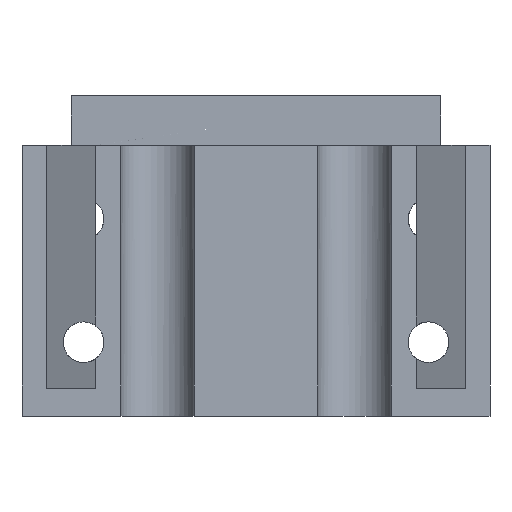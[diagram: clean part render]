
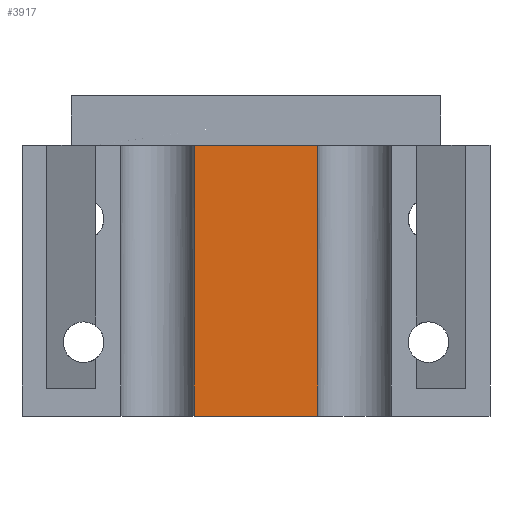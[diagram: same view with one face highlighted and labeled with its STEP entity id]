
A CAD part, left-side view. The second image highlights one B-rep face of the part: STEP entity #3917.
In plain terms, the highlighted planar face has unit normal (-1, 0, 0).
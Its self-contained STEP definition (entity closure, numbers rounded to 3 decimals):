
#100 = PLANE('',#101);
#101 = AXIS2_PLACEMENT_3D('',#102,#103,#104);
#102 = CARTESIAN_POINT('',(130.,63.,8.));
#103 = DIRECTION('',(0.,0.,1.));
#104 = DIRECTION('',(1.,0.,0.));
#438 = CYLINDRICAL_SURFACE('',#439,3.);
#439 = AXIS2_PLACEMENT_3D('',#440,#441,#442);
#440 = CARTESIAN_POINT('',(137.,70.,-15.));
#441 = DIRECTION('',(-0.,-0.,-1.));
#442 = DIRECTION('',(1.,0.,0.));
#543 = CYLINDRICAL_SURFACE('',#544,3.);
#544 = AXIS2_PLACEMENT_3D('',#545,#546,#547);
#545 = CARTESIAN_POINT('',(137.,86.,-15.));
#546 = DIRECTION('',(-0.,-0.,-1.));
#547 = DIRECTION('',(1.,0.,0.));
#994 = VERTEX_POINT('',#995);
#995 = CARTESIAN_POINT('',(136.925,72.999,8.));
#1021 = EDGE_CURVE('',#994,#1022,#1024,.T.);
#1022 = VERTEX_POINT('',#1023);
#1023 = CARTESIAN_POINT('',(136.925,83.001,8.));
#1024 = SURFACE_CURVE('',#1025,(#1029,#1036),.PCURVE_S1.);
#1025 = LINE('',#1026,#1027);
#1026 = CARTESIAN_POINT('',(136.925,59.,8.));
#1027 = VECTOR('',#1028,1.);
#1028 = DIRECTION('',(0.,1.,0.));
#1029 = PCURVE('',#100,#1030);
#1030 = DEFINITIONAL_REPRESENTATION('',(#1031),#1035);
#1031 = LINE('',#1032,#1033);
#1032 = CARTESIAN_POINT('',(6.925,-4.));
#1033 = VECTOR('',#1034,1.);
#1034 = DIRECTION('',(0.,1.));
#1035 = ( GEOMETRIC_REPRESENTATION_CONTEXT(2) 
PARAMETRIC_REPRESENTATION_CONTEXT() REPRESENTATION_CONTEXT('2D SPACE',''
  ) );
#1036 = PCURVE('',#1037,#1042);
#1037 = PLANE('',#1038);
#1038 = AXIS2_PLACEMENT_3D('',#1039,#1040,#1041);
#1039 = CARTESIAN_POINT('',(136.925,59.,-14.));
#1040 = DIRECTION('',(1.,0.,0.));
#1041 = DIRECTION('',(0.,0.,1.));
#1042 = DEFINITIONAL_REPRESENTATION('',(#1043),#1047);
#1043 = LINE('',#1044,#1045);
#1044 = CARTESIAN_POINT('',(22.,0.));
#1045 = VECTOR('',#1046,1.);
#1046 = DIRECTION('',(0.,-1.));
#1047 = ( GEOMETRIC_REPRESENTATION_CONTEXT(2) 
PARAMETRIC_REPRESENTATION_CONTEXT() REPRESENTATION_CONTEXT('2D SPACE',''
  ) );
#1956 = VERTEX_POINT('',#1957);
#1957 = CARTESIAN_POINT('',(136.925,72.999,-14.));
#1974 = PLANE('',#1975);
#1975 = AXIS2_PLACEMENT_3D('',#1976,#1977,#1978);
#1976 = CARTESIAN_POINT('',(136.925,59.,-14.));
#1977 = DIRECTION('',(0.,0.,1.));
#1978 = DIRECTION('',(1.,0.,0.));
#2061 = EDGE_CURVE('',#994,#1956,#2062,.T.);
#2062 = SURFACE_CURVE('',#2063,(#2067,#2073),.PCURVE_S1.);
#2063 = LINE('',#2064,#2065);
#2064 = CARTESIAN_POINT('',(136.925,72.999,-15.));
#2065 = VECTOR('',#2066,1.);
#2066 = DIRECTION('',(-0.,-0.,-1.));
#2067 = PCURVE('',#438,#2068);
#2068 = DEFINITIONAL_REPRESENTATION('',(#2069),#2072);
#2069 = B_SPLINE_CURVE_WITH_KNOTS('',1,(#2070,#2071),.UNSPECIFIED.,.F.,
  .F.,(2,2),(-25.2,0.),.PIECEWISE_BEZIER_KNOTS.);
#2070 = CARTESIAN_POINT('',(-1.596,-25.2));
#2071 = CARTESIAN_POINT('',(-1.596,0.));
#2072 = ( GEOMETRIC_REPRESENTATION_CONTEXT(2) 
PARAMETRIC_REPRESENTATION_CONTEXT() REPRESENTATION_CONTEXT('2D SPACE',''
  ) );
#2073 = PCURVE('',#1037,#2074);
#2074 = DEFINITIONAL_REPRESENTATION('',(#2075),#2078);
#2075 = B_SPLINE_CURVE_WITH_KNOTS('',1,(#2076,#2077),.UNSPECIFIED.,.F.,
  .F.,(2,2),(-25.2,0.),.PIECEWISE_BEZIER_KNOTS.);
#2076 = CARTESIAN_POINT('',(24.2,-13.999));
#2077 = CARTESIAN_POINT('',(-1.,-13.999));
#2078 = ( GEOMETRIC_REPRESENTATION_CONTEXT(2) 
PARAMETRIC_REPRESENTATION_CONTEXT() REPRESENTATION_CONTEXT('2D SPACE',''
  ) );
#2457 = VERTEX_POINT('',#2458);
#2458 = CARTESIAN_POINT('',(136.925,83.001,-14.));
#2484 = EDGE_CURVE('',#1022,#2457,#2485,.T.);
#2485 = SURFACE_CURVE('',#2486,(#2490,#2496),.PCURVE_S1.);
#2486 = LINE('',#2487,#2488);
#2487 = CARTESIAN_POINT('',(136.925,83.001,-15.));
#2488 = VECTOR('',#2489,1.);
#2489 = DIRECTION('',(-0.,-0.,-1.));
#2490 = PCURVE('',#543,#2491);
#2491 = DEFINITIONAL_REPRESENTATION('',(#2492),#2495);
#2492 = B_SPLINE_CURVE_WITH_KNOTS('',1,(#2493,#2494),.UNSPECIFIED.,.F.,
  .F.,(2,2),(-25.2,0.),.PIECEWISE_BEZIER_KNOTS.);
#2493 = CARTESIAN_POINT('',(-4.687,-25.2));
#2494 = CARTESIAN_POINT('',(-4.687,0.));
#2495 = ( GEOMETRIC_REPRESENTATION_CONTEXT(2) 
PARAMETRIC_REPRESENTATION_CONTEXT() REPRESENTATION_CONTEXT('2D SPACE',''
  ) );
#2496 = PCURVE('',#1037,#2497);
#2497 = DEFINITIONAL_REPRESENTATION('',(#2498),#2501);
#2498 = B_SPLINE_CURVE_WITH_KNOTS('',1,(#2499,#2500),.UNSPECIFIED.,.F.,
  .F.,(2,2),(-25.2,0.),.PIECEWISE_BEZIER_KNOTS.);
#2499 = CARTESIAN_POINT('',(24.2,-24.001));
#2500 = CARTESIAN_POINT('',(-1.,-24.001));
#2501 = ( GEOMETRIC_REPRESENTATION_CONTEXT(2) 
PARAMETRIC_REPRESENTATION_CONTEXT() REPRESENTATION_CONTEXT('2D SPACE',''
  ) );
#3917 = ADVANCED_FACE('',(#3918),#1037,.F.);
#3918 = FACE_BOUND('',#3919,.F.);
#3919 = EDGE_LOOP('',(#3920,#3921,#3922,#3943));
#3920 = ORIENTED_EDGE('',*,*,#1021,.F.);
#3921 = ORIENTED_EDGE('',*,*,#2061,.T.);
#3922 = ORIENTED_EDGE('',*,*,#3923,.T.);
#3923 = EDGE_CURVE('',#1956,#2457,#3924,.T.);
#3924 = SURFACE_CURVE('',#3925,(#3929,#3936),.PCURVE_S1.);
#3925 = LINE('',#3926,#3927);
#3926 = CARTESIAN_POINT('',(136.925,59.,-14.));
#3927 = VECTOR('',#3928,1.);
#3928 = DIRECTION('',(0.,1.,0.));
#3929 = PCURVE('',#1037,#3930);
#3930 = DEFINITIONAL_REPRESENTATION('',(#3931),#3935);
#3931 = LINE('',#3932,#3933);
#3932 = CARTESIAN_POINT('',(0.,0.));
#3933 = VECTOR('',#3934,1.);
#3934 = DIRECTION('',(0.,-1.));
#3935 = ( GEOMETRIC_REPRESENTATION_CONTEXT(2) 
PARAMETRIC_REPRESENTATION_CONTEXT() REPRESENTATION_CONTEXT('2D SPACE',''
  ) );
#3936 = PCURVE('',#1974,#3937);
#3937 = DEFINITIONAL_REPRESENTATION('',(#3938),#3942);
#3938 = LINE('',#3939,#3940);
#3939 = CARTESIAN_POINT('',(0.,0.));
#3940 = VECTOR('',#3941,1.);
#3941 = DIRECTION('',(0.,1.));
#3942 = ( GEOMETRIC_REPRESENTATION_CONTEXT(2) 
PARAMETRIC_REPRESENTATION_CONTEXT() REPRESENTATION_CONTEXT('2D SPACE',''
  ) );
#3943 = ORIENTED_EDGE('',*,*,#2484,.F.);
